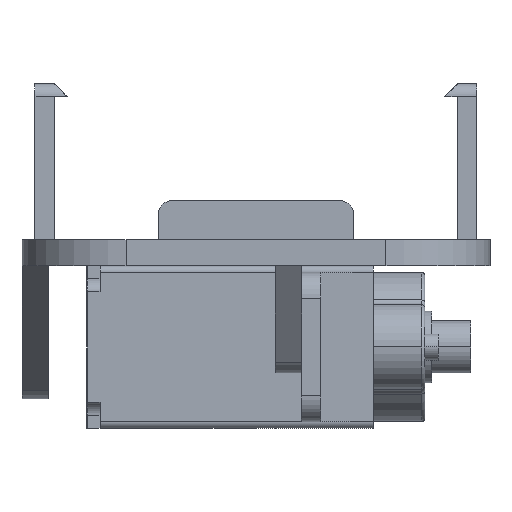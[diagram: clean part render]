
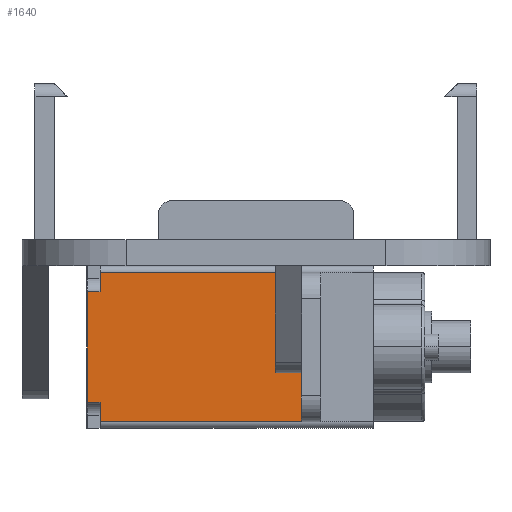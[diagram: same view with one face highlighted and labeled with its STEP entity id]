
A CAD part, front view. The second image highlights one B-rep face of the part: STEP entity #1640.
In plain terms, the highlighted planar face has unit normal (0, -1, 0).
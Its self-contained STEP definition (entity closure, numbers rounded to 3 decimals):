
#122 = LINE ( 'NONE', #4969, #3935 ) ;
#279 = VECTOR ( 'NONE', #2021, 1000. ) ;
#297 = LINE ( 'NONE', #4222, #4961 ) ;
#307 = VERTEX_POINT ( 'NONE', #923 ) ;
#325 = CARTESIAN_POINT ( 'NONE',  ( -10., -11.5, 5.75 ) ) ;
#347 = FACE_OUTER_BOUND ( 'NONE', #5350, .T. ) ;
#438 = ORIENTED_EDGE ( 'NONE', *, *, #4986, .T. ) ;
#631 = CARTESIAN_POINT ( 'NONE',  ( -11., -11.5, -4.25 ) ) ;
#863 = LINE ( 'NONE', #1420, #913 ) ;
#913 = VECTOR ( 'NONE', #2706, 1000. ) ;
#923 = CARTESIAN_POINT ( 'NONE',  ( -10., -11.5, 5.75 ) ) ;
#1020 = DIRECTION ( 'NONE',  ( 1., 0., 0. ) ) ;
#1080 = ORIENTED_EDGE ( 'NONE', *, *, #5393, .F. ) ;
#1121 = LINE ( 'NONE', #1954, #4512 ) ;
#1157 = LINE ( 'NONE', #325, #1618 ) ;
#1236 = PLANE ( 'NONE',  #3836 ) ;
#1420 = CARTESIAN_POINT ( 'NONE',  ( -10., -11.5, -4.25 ) ) ;
#1444 = LINE ( 'NONE', #1809, #1736 ) ;
#1536 = DIRECTION ( 'NONE',  ( 0., 0., -1. ) ) ;
#1550 = EDGE_CURVE ( 'NONE', #4577, #307, #1157, .T. ) ;
#1618 = VECTOR ( 'NONE', #4650, 1000. ) ;
#1640 = ADVANCED_FACE ( 'NONE', ( #347 ), #1236, .F. ) ;
#1692 = CARTESIAN_POINT ( 'NONE',  ( -10., -11.5, 4.25 ) ) ;
#1736 = VECTOR ( 'NONE', #3569, 1000. ) ;
#1809 = CARTESIAN_POINT ( 'NONE',  ( -10., -11.5, -6.25 ) ) ;
#1954 = CARTESIAN_POINT ( 'NONE',  ( -11., -11.5, 6.25 ) ) ;
#2021 = DIRECTION ( 'NONE',  ( -1., 0., 0. ) ) ;
#2078 = CARTESIAN_POINT ( 'NONE',  ( 5.5, -11.5, 5.75 ) ) ;
#2099 = DIRECTION ( 'NONE',  ( 0., 1., 0. ) ) ;
#2220 = CARTESIAN_POINT ( 'NONE',  ( -10., -11.5, 6.25 ) ) ;
#2273 = CARTESIAN_POINT ( 'NONE',  ( -11., -11.5, 4.25 ) ) ;
#2437 = ORIENTED_EDGE ( 'NONE', *, *, #3174, .F. ) ;
#2546 = VERTEX_POINT ( 'NONE', #1692 ) ;
#2617 = CARTESIAN_POINT ( 'NONE',  ( 5.5, -11.5, -5.75 ) ) ;
#2706 = DIRECTION ( 'NONE',  ( -1., 0., 0. ) ) ;
#2749 = VERTEX_POINT ( 'NONE', #5390 ) ;
#2880 = CARTESIAN_POINT ( 'NONE',  ( -10., -11.5, 4.25 ) ) ;
#2910 = LINE ( 'NONE', #2880, #279 ) ;
#2944 = VECTOR ( 'NONE', #3981, 1000. ) ;
#3174 = EDGE_CURVE ( 'NONE', #3211, #2749, #1444, .T. ) ;
#3183 = EDGE_CURVE ( 'NONE', #2546, #5426, #2910, .T. ) ;
#3211 = VERTEX_POINT ( 'NONE', #5560 ) ;
#3268 = ORIENTED_EDGE ( 'NONE', *, *, #4070, .T. ) ;
#3276 = VERTEX_POINT ( 'NONE', #631 ) ;
#3569 = DIRECTION ( 'NONE',  ( 0., 0., 1. ) ) ;
#3836 = AXIS2_PLACEMENT_3D ( 'NONE', #4677, #2099, #4711 ) ;
#3935 = VECTOR ( 'NONE', #1020, 1000. ) ;
#3981 = DIRECTION ( 'NONE',  ( 0., 0., 1. ) ) ;
#4058 = ORIENTED_EDGE ( 'NONE', *, *, #5364, .F. ) ;
#4070 = EDGE_CURVE ( 'NONE', #3211, #5401, #122, .T. ) ;
#4222 = CARTESIAN_POINT ( 'NONE',  ( 5.5, -11.5, 5.75 ) ) ;
#4317 = ORIENTED_EDGE ( 'NONE', *, *, #1550, .T. ) ;
#4476 = LINE ( 'NONE', #2220, #2944 ) ;
#4503 = ORIENTED_EDGE ( 'NONE', *, *, #3183, .T. ) ;
#4512 = VECTOR ( 'NONE', #5495, 1000. ) ;
#4528 = EDGE_CURVE ( 'NONE', #4577, #5401, #297, .T. ) ;
#4577 = VERTEX_POINT ( 'NONE', #2078 ) ;
#4650 = DIRECTION ( 'NONE',  ( -1., 0., 0. ) ) ;
#4677 = CARTESIAN_POINT ( 'NONE',  ( -11., -11.5, 6.25 ) ) ;
#4711 = DIRECTION ( 'NONE',  ( 0., 0., 1. ) ) ;
#4961 = VECTOR ( 'NONE', #1536, 1000. ) ;
#4969 = CARTESIAN_POINT ( 'NONE',  ( -11., -11.5, -5.75 ) ) ;
#4986 = EDGE_CURVE ( 'NONE', #5426, #3276, #1121, .T. ) ;
#5350 = EDGE_LOOP ( 'NONE', ( #2437, #3268, #5439, #4317, #1080, #4503, #438, #4058 ) ) ;
#5364 = EDGE_CURVE ( 'NONE', #2749, #3276, #863, .T. ) ;
#5390 = CARTESIAN_POINT ( 'NONE',  ( -10., -11.5, -4.25 ) ) ;
#5393 = EDGE_CURVE ( 'NONE', #2546, #307, #4476, .T. ) ;
#5401 = VERTEX_POINT ( 'NONE', #2617 ) ;
#5426 = VERTEX_POINT ( 'NONE', #2273 ) ;
#5439 = ORIENTED_EDGE ( 'NONE', *, *, #4528, .F. ) ;
#5495 = DIRECTION ( 'NONE',  ( 0., 0., -1. ) ) ;
#5560 = CARTESIAN_POINT ( 'NONE',  ( -10., -11.5, -5.75 ) ) ;
